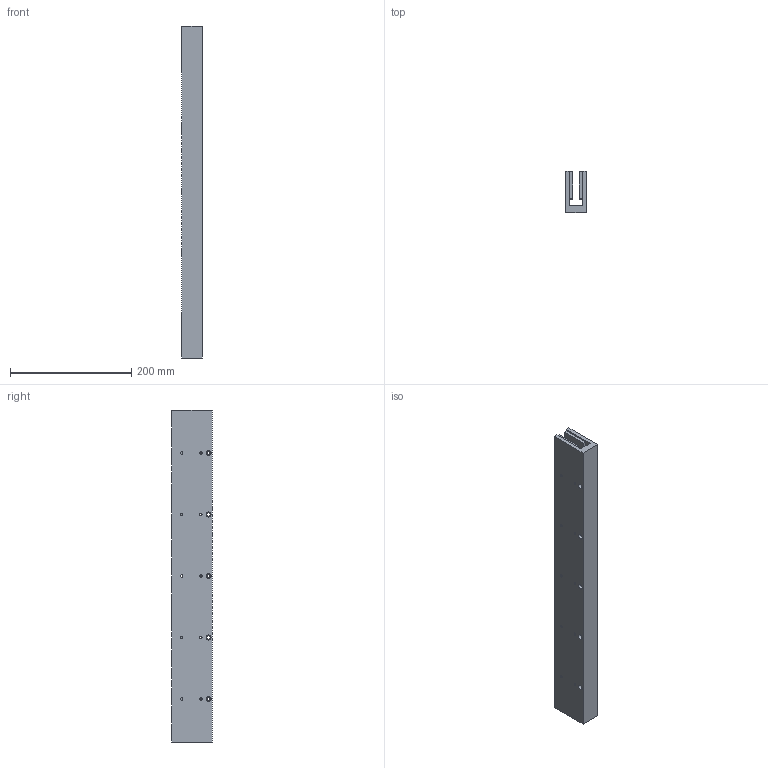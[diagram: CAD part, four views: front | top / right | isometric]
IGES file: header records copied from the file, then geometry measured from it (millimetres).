
Global section: file name: No Iges File Name specified; native system: Autodesk Inventor 2009; preprocessor: AutoDesk Inventor Iges Exporter R2009; author: je17857; date: 20091116.111504; units: inch
Bounding box: 34.29 x 67.31 x 548.64 mm (x, y, z)
Volume: 820906.7 mm3; surface area: 207273.9 mm2
Topology: 1 solids, 1 shells, 278 faces, 666 edges, 444 vertices
Faces by surface type: plane 198, bspline 80
